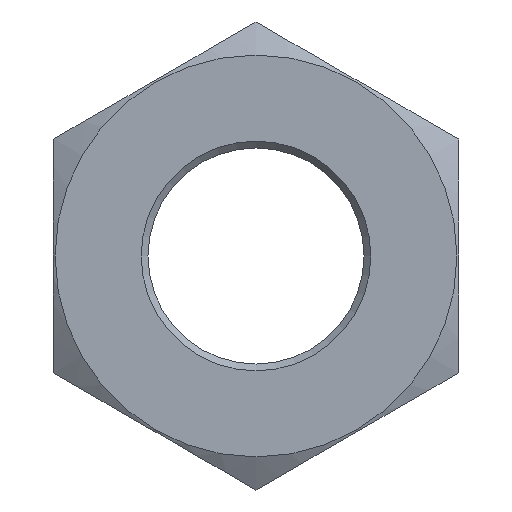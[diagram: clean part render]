
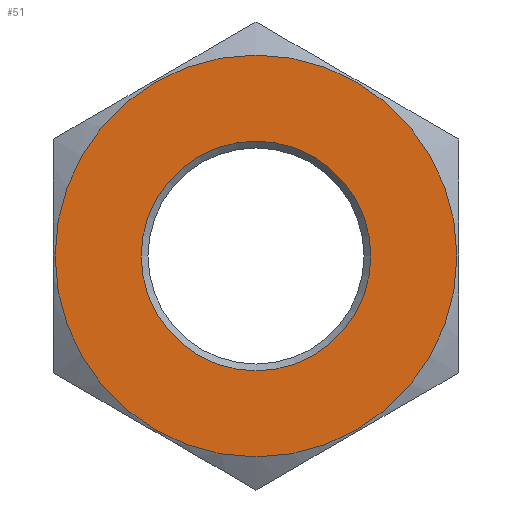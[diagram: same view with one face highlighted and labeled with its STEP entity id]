
A CAD part, left-side view. The second image highlights one B-rep face of the part: STEP entity #51.
In plain terms, the highlighted planar face has unit normal (-1, 0, 0).
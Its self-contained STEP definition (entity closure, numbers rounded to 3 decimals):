
#51 = ADVANCED_FACE( '', ( #111, #112 ), #113, .F. );
#111 = FACE_BOUND( '', #180, .T. );
#112 = FACE_OUTER_BOUND( '', #181, .T. );
#113 = PLANE( '', #182 );
#180 = EDGE_LOOP( '', ( #266 ) );
#181 = EDGE_LOOP( '', ( #267 ) );
#182 = AXIS2_PLACEMENT_3D( '', #268, #269, #270 );
#266 = ORIENTED_EDGE( '', *, *, #349, .T. );
#267 = ORIENTED_EDGE( '', *, *, #357, .T. );
#268 = CARTESIAN_POINT( '', ( -20.5, 0., 0. ) );
#269 = DIRECTION( '', ( 1., 0., 0. ) );
#270 = DIRECTION( '', ( 0., 1., 0. ) );
#349 = EDGE_CURVE( '', #395, #395, #396, .T. );
#357 = EDGE_CURVE( '', #410, #410, #411, .T. );
#395 = VERTEX_POINT( '', #462 );
#396 = CIRCLE( '', #463, 8.5 );
#410 = VERTEX_POINT( '', #547 );
#411 = CIRCLE( '', #548, 14.871 );
#462 = CARTESIAN_POINT( '', ( -20.5, 8.5, 0. ) );
#463 = AXIS2_PLACEMENT_3D( '', #675, #676, #677 );
#547 = CARTESIAN_POINT( '', ( -20.5, 0., 14.871 ) );
#548 = AXIS2_PLACEMENT_3D( '', #678, #679, #680 );
#675 = CARTESIAN_POINT( '', ( -20.5, 0., 0. ) );
#676 = DIRECTION( '', ( 1., 0., 0. ) );
#677 = DIRECTION( '', ( 0., 1., 0. ) );
#678 = CARTESIAN_POINT( '', ( -20.5, 0., 0. ) );
#679 = DIRECTION( '', ( -1., 0., 0. ) );
#680 = DIRECTION( '', ( 0., 0., 1. ) );
